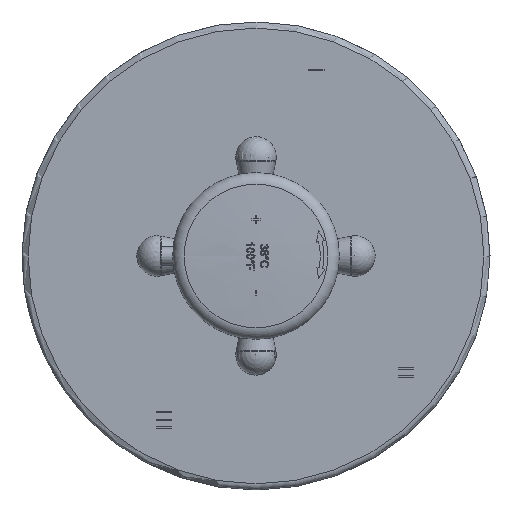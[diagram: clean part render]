
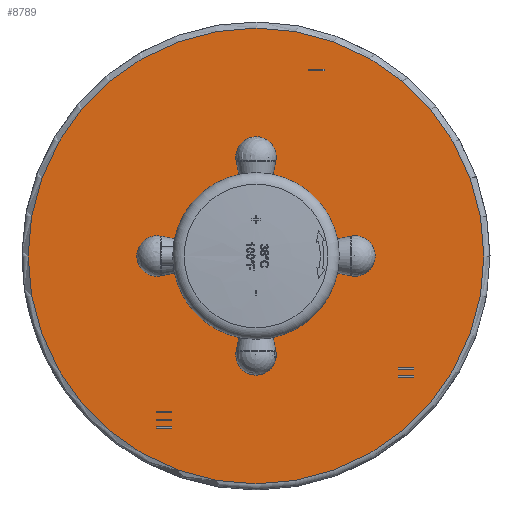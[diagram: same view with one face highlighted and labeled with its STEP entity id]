
A CAD part, front view. The second image highlights one B-rep face of the part: STEP entity #8789.
In plain terms, the highlighted planar face has unit normal (0, -1, 0) as drawn and (0, 0, 1) by its records, which use the part's own axes.
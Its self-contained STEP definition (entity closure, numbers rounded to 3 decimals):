
#411=LINE('',#12400,#926);
#414=LINE('',#12405,#929);
#416=LINE('',#12409,#931);
#418=LINE('',#12412,#933);
#419=LINE('',#12416,#934);
#423=LINE('',#12424,#938);
#426=LINE('',#12430,#941);
#429=LINE('',#12435,#944);
#435=LINE('',#12450,#950);
#438=LINE('',#12455,#953);
#440=LINE('',#12459,#955);
#442=LINE('',#12462,#957);
#443=LINE('',#12466,#958);
#447=LINE('',#12474,#962);
#450=LINE('',#12480,#965);
#453=LINE('',#12485,#968);
#459=LINE('',#12500,#974);
#462=LINE('',#12505,#977);
#464=LINE('',#12509,#979);
#466=LINE('',#12512,#981);
#467=LINE('',#12516,#982);
#471=LINE('',#12524,#986);
#474=LINE('',#12530,#989);
#477=LINE('',#12535,#992);
#926=VECTOR('',#10180,0.5);
#929=VECTOR('',#10185,5.);
#931=VECTOR('',#10189,5.);
#933=VECTOR('',#10193,0.5);
#934=VECTOR('',#10196,0.5);
#938=VECTOR('',#10202,5.);
#941=VECTOR('',#10207,5.);
#944=VECTOR('',#10212,0.5);
#950=VECTOR('',#10224,0.5);
#953=VECTOR('',#10229,5.);
#955=VECTOR('',#10233,5.);
#957=VECTOR('',#10237,0.5);
#958=VECTOR('',#10240,5.);
#962=VECTOR('',#10246,0.5);
#965=VECTOR('',#10251,0.5);
#968=VECTOR('',#10256,5.);
#974=VECTOR('',#10268,0.5);
#977=VECTOR('',#10273,5.);
#979=VECTOR('',#10277,5.);
#981=VECTOR('',#10281,0.5);
#982=VECTOR('',#10284,0.5);
#986=VECTOR('',#10290,5.);
#989=VECTOR('',#10295,5.);
#992=VECTOR('',#10300,0.5);
#1520=PLANE('',#9384);
#1757=CIRCLE('',#9383,26.85);
#1758=CIRCLE('',#9385,74.5);
#2100=FACE_BOUND('',#2880,.T.);
#2101=FACE_BOUND('',#2881,.T.);
#2102=FACE_BOUND('',#2882,.T.);
#2103=FACE_BOUND('',#2883,.T.);
#2104=FACE_BOUND('',#2884,.T.);
#2105=FACE_BOUND('',#2885,.T.);
#2106=FACE_BOUND('',#2886,.T.);
#2298=FACE_OUTER_BOUND('',#2879,.T.);
#2879=EDGE_LOOP('',(#6227));
#2880=EDGE_LOOP('',(#6228,#6229,#6230,#6231));
#2881=EDGE_LOOP('',(#6232,#6233,#6234,#6235));
#2882=EDGE_LOOP('',(#6236,#6237,#6238,#6239));
#2883=EDGE_LOOP('',(#6240,#6241,#6242,#6243));
#2884=EDGE_LOOP('',(#6244,#6245,#6246,#6247));
#2885=EDGE_LOOP('',(#6248,#6249,#6250,#6251));
#2886=EDGE_LOOP('',(#6252));
#3863=VERTEX_POINT('',#12398);
#3864=VERTEX_POINT('',#12399);
#3865=VERTEX_POINT('',#12404);
#3866=VERTEX_POINT('',#12408);
#3867=VERTEX_POINT('',#12414);
#3868=VERTEX_POINT('',#12415);
#3871=VERTEX_POINT('',#12423);
#3873=VERTEX_POINT('',#12429);
#3879=VERTEX_POINT('',#12448);
#3880=VERTEX_POINT('',#12449);
#3881=VERTEX_POINT('',#12454);
#3882=VERTEX_POINT('',#12458);
#3883=VERTEX_POINT('',#12464);
#3884=VERTEX_POINT('',#12465);
#3887=VERTEX_POINT('',#12473);
#3889=VERTEX_POINT('',#12479);
#3895=VERTEX_POINT('',#12498);
#3896=VERTEX_POINT('',#12499);
#3897=VERTEX_POINT('',#12504);
#3898=VERTEX_POINT('',#12508);
#3899=VERTEX_POINT('',#12514);
#3900=VERTEX_POINT('',#12515);
#3903=VERTEX_POINT('',#12523);
#3905=VERTEX_POINT('',#12529);
#3925=VERTEX_POINT('',#12626);
#3926=VERTEX_POINT('',#12629);
#4761=EDGE_CURVE('',#3863,#3864,#411,.T.);
#4764=EDGE_CURVE('',#3864,#3865,#414,.T.);
#4766=EDGE_CURVE('',#3866,#3863,#416,.T.);
#4768=EDGE_CURVE('',#3865,#3866,#418,.T.);
#4769=EDGE_CURVE('',#3867,#3868,#419,.T.);
#4773=EDGE_CURVE('',#3868,#3871,#423,.T.);
#4776=EDGE_CURVE('',#3873,#3867,#426,.T.);
#4779=EDGE_CURVE('',#3871,#3873,#429,.T.);
#4785=EDGE_CURVE('',#3879,#3880,#435,.T.);
#4788=EDGE_CURVE('',#3880,#3881,#438,.T.);
#4790=EDGE_CURVE('',#3882,#3879,#440,.T.);
#4792=EDGE_CURVE('',#3881,#3882,#442,.T.);
#4793=EDGE_CURVE('',#3883,#3884,#443,.T.);
#4797=EDGE_CURVE('',#3884,#3887,#447,.T.);
#4800=EDGE_CURVE('',#3889,#3883,#450,.T.);
#4803=EDGE_CURVE('',#3887,#3889,#453,.T.);
#4809=EDGE_CURVE('',#3895,#3896,#459,.T.);
#4812=EDGE_CURVE('',#3896,#3897,#462,.T.);
#4814=EDGE_CURVE('',#3898,#3895,#464,.T.);
#4816=EDGE_CURVE('',#3897,#3898,#466,.T.);
#4817=EDGE_CURVE('',#3899,#3900,#467,.T.);
#4821=EDGE_CURVE('',#3900,#3903,#471,.T.);
#4824=EDGE_CURVE('',#3905,#3899,#474,.T.);
#4827=EDGE_CURVE('',#3903,#3905,#477,.T.);
#4851=EDGE_CURVE('',#3925,#3925,#1757,.T.);
#4852=EDGE_CURVE('',#3926,#3926,#1758,.T.);
#6227=ORIENTED_EDGE('',*,*,#4852,.F.);
#6228=ORIENTED_EDGE('',*,*,#4761,.T.);
#6229=ORIENTED_EDGE('',*,*,#4764,.T.);
#6230=ORIENTED_EDGE('',*,*,#4768,.T.);
#6231=ORIENTED_EDGE('',*,*,#4766,.T.);
#6232=ORIENTED_EDGE('',*,*,#4769,.T.);
#6233=ORIENTED_EDGE('',*,*,#4773,.T.);
#6234=ORIENTED_EDGE('',*,*,#4779,.T.);
#6235=ORIENTED_EDGE('',*,*,#4776,.T.);
#6236=ORIENTED_EDGE('',*,*,#4785,.T.);
#6237=ORIENTED_EDGE('',*,*,#4788,.T.);
#6238=ORIENTED_EDGE('',*,*,#4792,.T.);
#6239=ORIENTED_EDGE('',*,*,#4790,.T.);
#6240=ORIENTED_EDGE('',*,*,#4793,.T.);
#6241=ORIENTED_EDGE('',*,*,#4797,.T.);
#6242=ORIENTED_EDGE('',*,*,#4803,.T.);
#6243=ORIENTED_EDGE('',*,*,#4800,.T.);
#6244=ORIENTED_EDGE('',*,*,#4809,.T.);
#6245=ORIENTED_EDGE('',*,*,#4812,.T.);
#6246=ORIENTED_EDGE('',*,*,#4816,.T.);
#6247=ORIENTED_EDGE('',*,*,#4814,.T.);
#6248=ORIENTED_EDGE('',*,*,#4817,.T.);
#6249=ORIENTED_EDGE('',*,*,#4821,.T.);
#6250=ORIENTED_EDGE('',*,*,#4827,.T.);
#6251=ORIENTED_EDGE('',*,*,#4824,.T.);
#6252=ORIENTED_EDGE('',*,*,#4851,.F.);
#8789=ADVANCED_FACE('',(#2298,#2100,#2101,#2102,#2103,#2104,#2105,#2106),
#1520,.F.);
#9383=AXIS2_PLACEMENT_3D('',#12627,#10360,#10361);
#9384=AXIS2_PLACEMENT_3D('',#12628,#10362,#10363);
#9385=AXIS2_PLACEMENT_3D('',#12630,#10364,#10365);
#10180=DIRECTION('',(-1.,0.,0.));
#10185=DIRECTION('',(0.,1.,0.));
#10189=DIRECTION('',(0.,-1.,0.));
#10193=DIRECTION('',(1.,0.,0.));
#10196=DIRECTION('',(-1.,0.,0.));
#10202=DIRECTION('',(0.,1.,0.));
#10207=DIRECTION('',(0.,-1.,0.));
#10212=DIRECTION('',(1.,0.,0.));
#10224=DIRECTION('',(-1.,0.,0.));
#10229=DIRECTION('',(0.,1.,0.));
#10233=DIRECTION('',(0.,-1.,0.));
#10237=DIRECTION('',(1.,0.,0.));
#10240=DIRECTION('',(0.,-1.,0.));
#10246=DIRECTION('',(-1.,0.,0.));
#10251=DIRECTION('',(1.,0.,0.));
#10256=DIRECTION('',(0.,1.,0.));
#10268=DIRECTION('',(-1.,0.,0.));
#10273=DIRECTION('',(0.,1.,0.));
#10277=DIRECTION('',(0.,-1.,0.));
#10281=DIRECTION('',(1.,0.,0.));
#10284=DIRECTION('',(-1.,0.,0.));
#10290=DIRECTION('',(0.,1.,0.));
#10295=DIRECTION('',(0.,-1.,0.));
#10300=DIRECTION('',(1.,0.,0.));
#10360=DIRECTION('center_axis',(0.,0.,1.));
#10361=DIRECTION('ref_axis',(-1.,0.,0.));
#10362=DIRECTION('center_axis',(0.,0.,-1.));
#10363=DIRECTION('ref_axis',(-1.,0.,0.));
#10364=DIRECTION('center_axis',(0.,0.,-1.));
#10365=DIRECTION('ref_axis',(-1.,0.,0.));
#12398=CARTESIAN_POINT('',(51.292,-32.5,12.));
#12399=CARTESIAN_POINT('',(50.792,-32.5,12.));
#12400=CARTESIAN_POINT('',(25.396,-32.5,12.));
#12404=CARTESIAN_POINT('',(50.792,-27.5,12.));
#12405=CARTESIAN_POINT('',(50.792,-13.75,12.));
#12408=CARTESIAN_POINT('',(51.292,-27.5,12.));
#12409=CARTESIAN_POINT('',(51.292,-16.25,12.));
#12412=CARTESIAN_POINT('',(25.646,-27.5,12.));
#12414=CARTESIAN_POINT('',(-60.58,17.231,12.));
#12415=CARTESIAN_POINT('',(-61.08,17.231,12.));
#12416=CARTESIAN_POINT('',(-30.54,17.231,12.));
#12423=CARTESIAN_POINT('',(-61.08,22.231,12.));
#12424=CARTESIAN_POINT('',(-61.08,11.116,12.));
#12429=CARTESIAN_POINT('',(-60.58,22.231,12.));
#12430=CARTESIAN_POINT('',(-60.58,8.616,12.));
#12435=CARTESIAN_POINT('',(-30.29,22.231,12.));
#12448=CARTESIAN_POINT('',(53.792,-32.5,12.));
#12449=CARTESIAN_POINT('',(53.292,-32.5,12.));
#12450=CARTESIAN_POINT('',(26.646,-32.5,12.));
#12454=CARTESIAN_POINT('',(53.292,-27.5,12.));
#12455=CARTESIAN_POINT('',(53.292,-13.75,12.));
#12458=CARTESIAN_POINT('',(53.792,-27.5,12.));
#12459=CARTESIAN_POINT('',(53.792,-16.25,12.));
#12462=CARTESIAN_POINT('',(26.896,-27.5,12.));
#12464=CARTESIAN_POINT('',(39.569,51.568,12.));
#12465=CARTESIAN_POINT('',(39.569,46.568,12.));
#12466=CARTESIAN_POINT('',(39.569,23.284,12.));
#12473=CARTESIAN_POINT('',(39.069,46.568,12.));
#12474=CARTESIAN_POINT('',(19.535,46.568,12.));
#12479=CARTESIAN_POINT('',(39.069,51.568,12.));
#12480=CARTESIAN_POINT('',(19.785,51.568,12.));
#12485=CARTESIAN_POINT('',(39.069,25.784,12.));
#12498=CARTESIAN_POINT('',(56.292,-32.5,12.));
#12499=CARTESIAN_POINT('',(55.792,-32.5,12.));
#12500=CARTESIAN_POINT('',(27.896,-32.5,12.));
#12504=CARTESIAN_POINT('',(55.792,-27.5,12.));
#12505=CARTESIAN_POINT('',(55.792,-13.75,12.));
#12508=CARTESIAN_POINT('',(56.292,-27.5,12.));
#12509=CARTESIAN_POINT('',(56.292,-16.25,12.));
#12512=CARTESIAN_POINT('',(28.146,-27.5,12.));
#12514=CARTESIAN_POINT('',(37.069,46.568,12.));
#12515=CARTESIAN_POINT('',(36.569,46.568,12.));
#12516=CARTESIAN_POINT('',(18.285,46.568,12.));
#12523=CARTESIAN_POINT('',(36.569,51.568,12.));
#12524=CARTESIAN_POINT('',(36.569,25.784,12.));
#12529=CARTESIAN_POINT('',(37.069,51.568,12.));
#12530=CARTESIAN_POINT('',(37.069,23.284,12.));
#12535=CARTESIAN_POINT('',(18.535,51.568,12.));
#12626=CARTESIAN_POINT('',(26.85,0.,12.));
#12627=CARTESIAN_POINT('Origin',(0.,0.,12.));
#12628=CARTESIAN_POINT('Origin',(0.,0.,12.));
#12629=CARTESIAN_POINT('',(74.5,0.,12.));
#12630=CARTESIAN_POINT('Origin',(0.,0.,12.));
